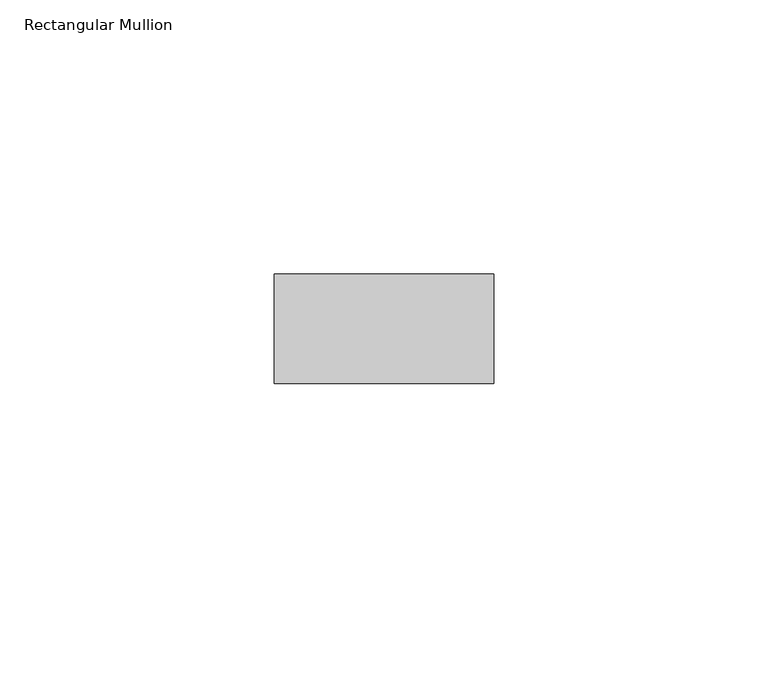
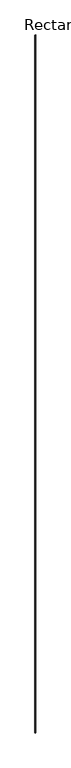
"""IFC4 building model written with IfcOpenShell, lengths in millimetres: member geometry, Rectangular Mullion : RIPA 4x2 cm."""

import ifcopenshell
import ifcopenshell.guid

model = None  # the IFC model being written
_history = None  # IfcOwnerHistory: only IFC2X3 demands one
_inside = {}  # id of a spatial element -> (the spatial element, [elements in it])
_under = {}  # id of a project, library or spatial element -> (it, [spatial elements below it])
_declared = {}  # id of a project -> (the project, [libraries it declares])
_typed = {}  # id of a type object -> (the type object, [elements of that type])
_made_of = {}  # id of a material, layer set ... -> (it, [elements and type objects made of it])


def new_model(schema):
    """Start an empty IFC model of exactly this schema.

    Asked for "IFC4X3", IfcOpenShell would pick the latest addendum, in which some entities
    have other attributes; the version numbers below select the first issue.
    IFC2X3 requires an IfcOwnerHistory on every rooted entity: one is made here for all.
    """
    global model, _history
    if schema == "IFC4X3":
        model = ifcopenshell.file(schema_version=(4, 3, 0, 0))
    else:
        model = ifcopenshell.file(schema=schema)
    _inside.clear()
    _under.clear()
    _declared.clear()
    _typed.clear()
    _made_of.clear()
    _history = None
    if model.schema == "IFC2X3":
        org = make("IfcOrganization", Name="unknown")
        user = make(
            "IfcPersonAndOrganization",
            ThePerson=make("IfcPerson", FamilyName="unknown"),
            TheOrganization=org,
        )
        app = make(
            "IfcApplication",
            ApplicationDeveloper=org,
            Version="unknown",
            ApplicationFullName="unknown",
            ApplicationIdentifier="unknown",
        )
        _history = make(
            "IfcOwnerHistory",
            OwningUser=user,
            OwningApplication=app,
            ChangeAction="ADDED",
            CreationDate=0,
        )
    return model


def make(cls, **values):
    """One entity of the class cls with the attributes given. An attribute that is None is left unset."""
    return model.create_entity(
        cls, **{name: value for name, value in values.items() if value is not None}
    )


def rooted(cls, **values):
    """An entity with a GlobalId (a new one), such as an element, a storey or a relation."""
    return make(cls, GlobalId=ifcopenshell.guid.new(), OwnerHistory=_history, **values)


def si_unit(unit_type, name, prefix=None):
    """IfcSIUnit, for example si_unit("LENGTHUNIT", "METRE", prefix="MILLI")."""
    return make("IfcSIUnit", UnitType=unit_type, Prefix=prefix, Name=name)


def assignment(units):
    """IfcUnitAssignment: the units of a project."""
    return None if units is None else make("IfcUnitAssignment", Units=units)


def point(xyz):
    """IfcCartesianPoint."""
    return None if xyz is None else make("IfcCartesianPoint", Coordinates=xyz)


def direction(xyz):
    """IfcDirection."""
    return None if xyz is None else make("IfcDirection", DirectionRatios=xyz)


def frame(location, z_axis=None, x_axis=None):
    """IfcAxis2Placement3D, a coordinate frame: its origin and axes. An axis left out is left unset."""
    return make(
        "IfcAxis2Placement3D",
        Location=point(location),
        Axis=direction(z_axis),
        RefDirection=direction(x_axis),
    )


def origin():
    """The frame at (0, 0, 0) with its axes left unset."""
    return frame((0.0, 0.0, 0.0))


def place(relative_to, where):
    """IfcLocalPlacement: puts the frame where relative to a parent placement (None: the world)."""
    return make(
        "IfcLocalPlacement", PlacementRelTo=relative_to, RelativePlacement=where
    )


def context(
    kind, dimensions, precision=None, world=None, true_north=None, identifier=None
):
    """IfcGeometricRepresentationContext, for example the 3D "Model" context."""
    return make(
        "IfcGeometricRepresentationContext",
        ContextIdentifier=identifier,
        ContextType=kind,
        CoordinateSpaceDimension=dimensions,
        Precision=precision,
        WorldCoordinateSystem=world,
        TrueNorth=true_north,
    )


def project(units=None, contexts=None):
    """IfcProject with its units and contexts."""
    return rooted(
        "IfcProject",
        Name="project",
        RepresentationContexts=contexts,
        UnitsInContext=assignment(units),
    )


def spatial(cls, under=None, at=None, **own):
    """A site, building, storey or space (cls), placed at a placement, below another one or the project."""
    s = rooted(cls, ObjectPlacement=at, **own)
    if under is not None:
        _under.setdefault(under.id(), (under, []))[1].append(s)
    return s


def polyline(points):
    """IfcPolyline through the points."""
    return make("IfcPolyline", Points=[point(p) for p in points])


def outline(outer, holes=None, kind="AREA"):
    """IfcArbitraryClosedProfileDef: a profile drawn as a closed curve; with holes, ...WithVoids."""
    if holes is None:
        return make("IfcArbitraryClosedProfileDef", ProfileType=kind, OuterCurve=outer)
    return make(
        "IfcArbitraryProfileDefWithVoids",
        ProfileType=kind,
        OuterCurve=outer,
        InnerCurves=holes,
    )


def extrude(swept, where, along, depth):
    """IfcExtrudedAreaSolid: the profile swept, set in the frame where, extruded along a direction by depth."""
    return make(
        "IfcExtrudedAreaSolid",
        SweptArea=swept,
        Position=where,
        ExtrudedDirection=direction(along),
        Depth=depth,
    )


def shape(context_of_items, identifier, shape_type, items):
    """IfcShapeRepresentation: the items that make up one representation, for example the "Body"."""
    return make(
        "IfcShapeRepresentation",
        ContextOfItems=context_of_items,
        RepresentationIdentifier=identifier,
        RepresentationType=shape_type,
        Items=items,
    )


def source(mapping_origin, context_of_items, identifier, shape_type, items):
    """IfcRepresentationMap: a shape defined once, which mapped items show again and again."""
    return make(
        "IfcRepresentationMap",
        MappingOrigin=mapping_origin,
        MappedRepresentation=shape(context_of_items, identifier, shape_type, items),
    )


def transform(
    local_origin,
    x_axis=None,
    y_axis=None,
    z_axis=None,
    scale=None,
    scale2=None,
    scale3=None,
    uniform=True,
):
    """IfcCartesianTransformationOperator3D, or its non-uniform kind. x_axis, y_axis, z_axis: its Axis1, 2, 3."""
    if uniform:
        return make(
            "IfcCartesianTransformationOperator3D",
            Axis1=direction(x_axis),
            Axis2=direction(y_axis),
            LocalOrigin=point(local_origin),
            Scale=scale,
            Axis3=direction(z_axis),
        )
    return make(
        "IfcCartesianTransformationOperator3DnonUniform",
        Axis1=direction(x_axis),
        Axis2=direction(y_axis),
        LocalOrigin=point(local_origin),
        Scale=scale,
        Axis3=direction(z_axis),
        Scale2=scale2,
        Scale3=scale3,
    )


def mapped(mapping_source, mapping_target):
    """IfcMappedItem: shows the shape of a source again, moved by a transform."""
    return make(
        "IfcMappedItem", MappingSource=mapping_source, MappingTarget=mapping_target
    )


def made_of(thing, what):
    """Note that an element or type object is made of a material, layer set ...; save() writes the relation."""
    if what is not None:
        _made_of.setdefault(what.id(), (what, []))[1].append(thing)
    return thing


def element(
    cls,
    number,
    at=None,
    inside=None,
    cuts=None,
    type_object=None,
    material=None,
    context=None,
    identifier="Body",
    shape_type=None,
    held_by="IfcProductDefinitionShape",
    body=None,
    shapes=None,
    **own,
):
    """One element of the class cls, such as IfcWall. Its Tag is "e" and its number.

    at: its placement. inside: the storey or other place that contains it. cuts: it is an
    opening in that element (IfcRelVoidsElement). A single representation is given by context,
    identifier, shape_type and body (its items); several are given by shapes. held_by: the class
    of the entity that holds the representations. save() writes the other relations.
    """
    e = rooted(cls, Tag="e%d" % number, ObjectPlacement=at, **own)
    if body is not None:
        shapes = [shape(context, identifier, shape_type, body)]
    if shapes is not None:
        e.Representation = make(held_by, Representations=shapes)
    if inside is not None:
        _inside.setdefault(inside.id(), (inside, []))[1].append(e)
    if cuts is not None:
        rooted(
            "IfcRelVoidsElement", RelatingBuildingElement=cuts, RelatedOpeningElement=e
        )
    if type_object is not None:
        _typed.setdefault(type_object.id(), (type_object, []))[1].append(e)
    return made_of(e, material)


def aggregate(whole, parts):
    """IfcRelAggregates: a whole, such as a stair, and the parts it consists of."""
    return rooted("IfcRelAggregates", RelatingObject=whole, RelatedObjects=parts)


def save(model, path):
    """Write the relations noted so far, then the file.

    IfcRelAggregates (storeys below a building ...), IfcRelContainedInSpatialStructure (elements
    in a storey), IfcRelDefinesByType, IfcRelAssociatesMaterial and IfcRelDeclares: one each for
    every whole, place, type object, material and project.
    """
    for whole, parts in _under.values():
        aggregate(whole, parts)
    for where, things in _inside.values():
        rooted(
            "IfcRelContainedInSpatialStructure",
            RelatedElements=things,
            RelatingStructure=where,
        )
    for kind, things in _typed.values():
        rooted("IfcRelDefinesByType", RelatedObjects=things, RelatingType=kind)
    for what, things in _made_of.values():
        rooted("IfcRelAssociatesMaterial", RelatedObjects=things, RelatingMaterial=what)
    for by, libraries in _declared.values():
        rooted("IfcRelDeclares", RelatingContext=by, RelatedDefinitions=libraries)
    model.write(path)


def rectangular_mullion_44281da4(model_context):
    return source(origin(), model_context, "Body", "SweptSolid", [
        extrude(outline(polyline([(20.0, 0.0), (20.0, -20.0), (-20.0, -20.0), (-20.0, 0.0), (20.0, 0.0)])), frame((0.0, 0.0, -38808.3054204), z_axis=(0.0, 0.0, 1.0), x_axis=(1.0, 0.0, 0.0)), (0.0, 0.0, 1.0), 38808.3054204),
    ])


if __name__ == "__main__":
    model = new_model("IFC4")
    model_context = context("Model", 3, world=origin())
    ifc_project = project(units=[si_unit("LENGTHUNIT", "METRE", prefix="MILLI")], contexts=[model_context])
    site = spatial("IfcSite", under=ifc_project)
    building = spatial("IfcBuilding", under=site)
    placement = place(None, origin())
    rectangular_mullion_shape = rectangular_mullion_44281da4(model_context)
    element("IfcMember", 1, ObjectType="Rectangular Mullion : RIPA 4x2 cm", at=placement, inside=building, context=model_context, shape_type="MappedRepresentation", body=[
        mapped(rectangular_mullion_shape, transform((0.0, 0.0, 0.0), x_axis=(1.0, 0.0, 0.0), y_axis=(0.0, 1.0, 0.0), z_axis=(0.0, 0.0, 1.0))),
    ])
    save(model, "model.ifc")
